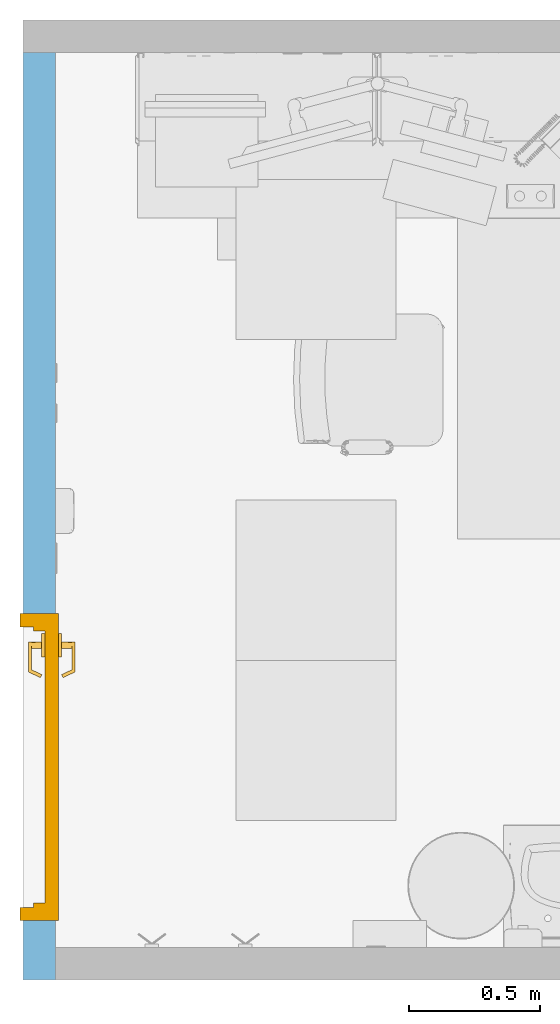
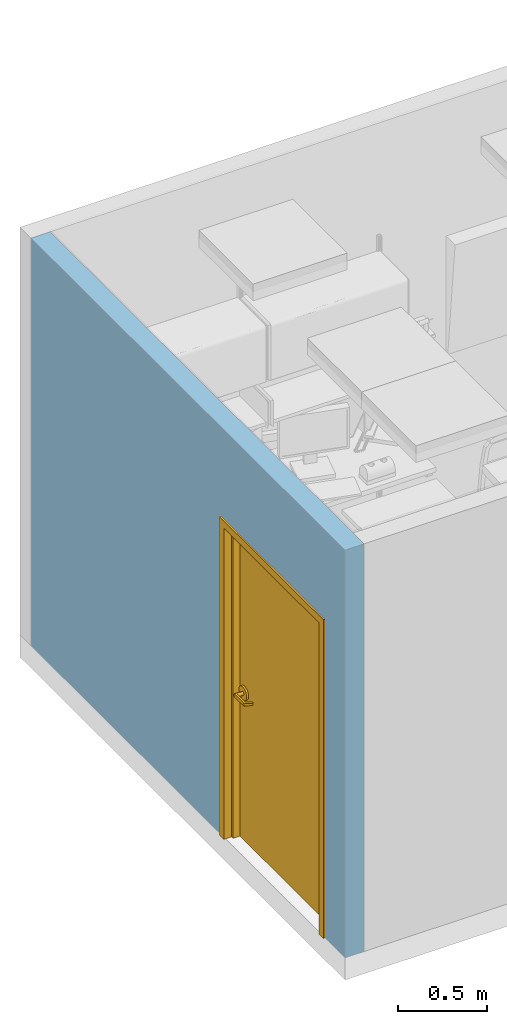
# One storey, part 2 of 9: 1 door, 1 opening, plus 1 element that does not belong to this part.
"""IFC2X3 building model written with IfcOpenShell, lengths in feet."""

from ifc_helpers import new_model, entity, si_unit, converted_unit, derived_unit, direction, frame, frame_2d, origin, place, context, subcontext, project, spatial, rectangle, extrude, faceted_brep, source, transform, mapped, material, layer, layer_set, layer_usage, type_object, type_shapes, element, fill, save


model = new_model("IFC2X3")

# Units and contexts
model_context = context("Model", 3, precision=0.0001, world=origin(), true_north=direction((6.12303176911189e-17, 1.0)))
body_context = subcontext(model_context, "Body", "Model", "MODEL_VIEW")
ifc_project = project(units=[converted_unit("LENGTHUNIT", "FOOT", entity("IfcRatioMeasure", 0.3048), si_unit("LENGTHUNIT", "METRE"), dimensions=[1, 0, 0, 0, 0, 0, 0]), converted_unit("AREAUNIT", "SQUARE FOOT", entity("IfcRatioMeasure", 0.09290304), si_unit("AREAUNIT", "SQUARE_METRE"), dimensions=[2, 0, 0, 0, 0, 0, 0]), converted_unit("VOLUMEUNIT", "CUBIC FOOT", entity("IfcRatioMeasure", 0.028316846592), si_unit("VOLUMEUNIT", "CUBIC_METRE"), dimensions=[3, 0, 0, 0, 0, 0, 0]), converted_unit("PLANEANGLEUNIT", "DEGREE", entity("IfcRatioMeasure", 0.0174532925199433), si_unit("PLANEANGLEUNIT", "RADIAN"), dimensions=[0, 0, 0, 0, 0, 0, 0]), si_unit("MASSUNIT", "GRAM", prefix="KILO"), derived_unit("MASSDENSITYUNIT", [(si_unit("MASSUNIT", "GRAM", prefix="KILO"), 1), (si_unit("LENGTHUNIT", "METRE"), -3)]), si_unit("TIMEUNIT", "SECOND"), si_unit("FREQUENCYUNIT", "HERTZ"), si_unit("THERMODYNAMICTEMPERATUREUNIT", "DEGREE_CELSIUS"), derived_unit("THERMALTRANSMITTANCEUNIT", [(si_unit("MASSUNIT", "GRAM", prefix="KILO"), 1), (si_unit("THERMODYNAMICTEMPERATUREUNIT", "KELVIN"), -1), (si_unit("TIMEUNIT", "SECOND"), -3)]), derived_unit("VOLUMETRICFLOWRATEUNIT", [(si_unit("LENGTHUNIT", "METRE"), 3), (si_unit("TIMEUNIT", "SECOND"), -1)]), si_unit("ELECTRICCURRENTUNIT", "AMPERE"), si_unit("ELECTRICVOLTAGEUNIT", "VOLT"), si_unit("POWERUNIT", "WATT"), si_unit("FORCEUNIT", "NEWTON"), si_unit("ILLUMINANCEUNIT", "LUX"), si_unit("LUMINOUSFLUXUNIT", "LUMEN"), si_unit("LUMINOUSINTENSITYUNIT", "CANDELA"), derived_unit("USERDEFINED", [(si_unit("MASSUNIT", "GRAM", prefix="KILO"), -1), (si_unit("LENGTHUNIT", "METRE"), -2), (si_unit("TIMEUNIT", "SECOND"), 3), (si_unit("LUMINOUSFLUXUNIT", "LUMEN"), 1)]), derived_unit("LINEARVELOCITYUNIT", [(si_unit("LENGTHUNIT", "METRE"), 1), (si_unit("TIMEUNIT", "SECOND"), -1)]), si_unit("PRESSUREUNIT", "PASCAL"), derived_unit("USERDEFINED", [(si_unit("LENGTHUNIT", "METRE"), -2), (si_unit("MASSUNIT", "GRAM", prefix="KILO"), 1), (si_unit("TIMEUNIT", "SECOND"), -2)])], contexts=[model_context])

# Site, building, storey
site_placement = place(None, origin())
site = spatial("IfcSite", under=ifc_project, at=site_placement, Name="Default", CompositionType="ELEMENT")
building_placement = place(site_placement, origin())
building = spatial("IfcBuilding", under=site, at=building_placement, Name="AUDIOLOGY AND SPEECH PATHOLOGY (Ch. 204)", CompositionType="ELEMENT")
storey_placement = place(building_placement, frame((0.0, 0.0, 42.0)))
storey = spatial("IfcBuildingStorey", under=building, at=storey_placement, Name="AUD01 - Audiology Rehabilitation/Counseling", CompositionType="ELEMENT", Elevation=42.0)

# Wall, opening, door
ifc_material = material(Name="<Unnamed>")
ifc_layer = layer(ifc_material, 0.40625)
ifc_layer_set = layer_set([ifc_layer], Name="Basic Wall:Interior - 4 7/8\"")
ifc_layer_usage = layer_usage(ifc_layer_set, "AXIS2", "POSITIVE", -0.203125)
wall_type = type_object("IfcWallType", Name="Basic Wall:Interior - 4 7/8\"", PredefinedType="STANDARD", material=ifc_layer_set)
wall_placement = place(storey_placement, frame((-1.02604166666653, 0.187500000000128, 0.0), z_axis=(0.0, 0.0, 1.0), x_axis=(0.0, 1.0, 0.0)))
wall = element("IfcWallStandardCase", 1, at=wall_placement, inside=storey, type_object=wall_type, material=ifc_layer_usage, Name="Basic Wall:Interior - 4 7/8\"", ObjectType="Basic Wall:Interior - 4 7/8\"", context=body_context, shape_type="SweptSolid", body=[
    extrude(rectangle(XDim=11.5729166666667, YDim=0.40625, at=frame_2d((5.78645833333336, 1.38777878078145e-17), x_axis=(-1.0, 0.0))), origin(), (0.0, 0.0, 1.0), 9.16666666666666),
])
opening_placement = place(wall_placement, frame((4.57291666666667, 0.203125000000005, 0.0)))
opening = element("IfcOpeningElement", 2, at=opening_placement, cuts=wall, Name="Single - Flush:42\" x 84\":1", ObjectType="Opening", context=body_context, shape_type="SweptSolid", body=[
    extrude(rectangle(XDim=3.83333333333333, YDim=7.16666666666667, at=frame_2d((3.58333333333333, 1.91666666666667), x_axis=(0.0, 1.0))), frame((0.0, 0.0, 0.0), z_axis=(0.0, -1.0, 0.0), x_axis=(0.0, 0.0, 1.0)), (0.0, 0.0, 1.0), 0.40625),
])
door_style = type_object("IfcDoorStyle", Name="42\" x 84\"", ConstructionType="NOTDEFINED", OperationType="NOTDEFINED", ParameterTakesPrecedence=False, Sizeable=False)
shared_shape = source(origin(), body_context, "Body", "Brep", [
    faceted_brep([(0.761840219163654, 0.236368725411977, 3.3541666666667), (0.761840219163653, 0.236368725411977, 3.31250000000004), (0.709012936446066, 0.123080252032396, 3.30208333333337), (0.702622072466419, 0.109375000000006, 3.30208333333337), (0.702622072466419, 0.109375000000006, 3.36458333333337), (0.709012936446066, 0.123080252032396, 3.36458333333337), (0.799603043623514, 0.218759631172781, 3.3541666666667), (0.746775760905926, 0.1054711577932, 3.36458333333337), (0.729166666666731, 0.0677083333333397, 3.36458333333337), (0.72916666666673, 0.0677083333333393, 3.30208333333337), (0.746775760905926, 0.1054711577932, 3.30208333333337), (0.799603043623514, 0.218759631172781, 3.31250000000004), (0.72916666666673, 0.109375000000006, 3.30208333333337), (0.729166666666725, 0.109375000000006, 3.36458333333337), (0.397137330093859, 0.0677083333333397, 3.29168707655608), (0.397137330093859, 0.0677083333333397, 3.37497959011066), (0.38693671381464, 0.0677083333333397, 3.37403912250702), (0.377273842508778, 0.0677083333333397, 3.37063824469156), (0.368732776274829, 0.0677083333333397, 3.36498251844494), (0.361829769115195, 0.0677083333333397, 3.35741379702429), (0.356982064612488, 0.0677083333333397, 3.34838956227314), (0.354482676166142, 0.0677083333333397, 3.33845527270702), (0.354482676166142, 0.0677083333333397, 3.32821139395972), (0.356982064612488, 0.0677083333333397, 3.31827710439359), (0.361829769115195, 0.0677083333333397, 3.30925286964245), (0.368732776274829, 0.0677083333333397, 3.3016841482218), (0.377273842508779, 0.0677083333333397, 3.29602842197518), (0.38693671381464, 0.0677083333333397, 3.29262754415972), (0.397137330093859, 0.109375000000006, 3.29168707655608), (0.407663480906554, 0.109375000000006, 3.29338137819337), (0.417415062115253, 0.109375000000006, 3.29769150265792), (0.425753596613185, 0.109375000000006, 3.30433524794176), (0.432133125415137, 0.109375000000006, 3.31287762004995), (0.436135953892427, 0.109375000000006, 3.32275931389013), (0.437500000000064, 0.109375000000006, 3.33333333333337), (0.436135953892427, 0.109375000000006, 3.34390735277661), (0.432133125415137, 0.109375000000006, 3.35378904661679), (0.425753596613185, 0.109375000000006, 3.36233141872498), (0.417415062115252, 0.109375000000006, 3.36897516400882), (0.407663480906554, 0.109375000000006, 3.37328528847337), (0.397137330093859, 0.109375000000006, 3.37497959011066), (0.387651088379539, 0.109375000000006, 3.29247795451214), (0.378594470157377, 0.109375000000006, 3.2954000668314), (0.363605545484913, 0.109375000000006, 3.30692347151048), (0.370437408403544, 0.109375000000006, 3.30030065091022), (0.358454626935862, 0.109375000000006, 3.31492291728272), (0.355252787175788, 0.109375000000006, 3.32388185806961), (0.35416666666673, 0.109375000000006, 3.33333333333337), (0.355252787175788, 0.109375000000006, 3.34278480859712), (0.358454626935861, 0.109375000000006, 3.35174374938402), (0.370437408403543, 0.109375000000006, 3.36636601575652), (0.363605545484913, 0.109375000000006, 3.35974319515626), (0.378594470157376, 0.109375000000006, 3.37126659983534), (0.387651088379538, 0.109375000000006, 3.3741887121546), (0.35416666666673, 0.234375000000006, 3.33333333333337), (0.355586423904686, 0.234375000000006, 3.34411746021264), (0.359748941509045, 0.234375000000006, 3.3541666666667), (0.375000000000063, 0.234375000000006, 3.36941772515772), (0.366370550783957, 0.234375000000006, 3.36279611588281), (0.385049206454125, 0.234375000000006, 3.37358024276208), (0.395833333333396, 0.234375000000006, 3.37500000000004), (0.406617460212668, 0.234375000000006, 3.37358024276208), (0.41666666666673, 0.234375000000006, 3.36941772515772), (0.431917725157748, 0.234375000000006, 3.3541666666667), (0.425296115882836, 0.234375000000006, 3.36279611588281), (0.436080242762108, 0.234375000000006, 3.34411746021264), (0.437500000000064, 0.234375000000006, 3.33333333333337), (0.436080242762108, 0.234375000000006, 3.3225492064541), (0.431917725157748, 0.234375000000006, 3.31250000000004), (0.41666666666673, 0.234375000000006, 3.29724894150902), (0.425296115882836, 0.234375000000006, 3.30387055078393), (0.406617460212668, 0.234375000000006, 3.29308642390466), (0.395833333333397, 0.234375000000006, 3.2916666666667), (0.385049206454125, 0.234375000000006, 3.29308642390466), (0.375000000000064, 0.234375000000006, 3.29724894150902), (0.359748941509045, 0.234375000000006, 3.31250000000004), (0.366370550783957, 0.234375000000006, 3.30387055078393), (0.355586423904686, 0.234375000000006, 3.3225492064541), (0.468750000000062, 0.234375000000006, 3.4596287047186), (0.498953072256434, 0.234375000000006, 3.43645307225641), (0.433577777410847, 0.234375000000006, 3.47419751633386), (0.395833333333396, 0.234375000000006, 3.4791666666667), (0.358088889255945, 0.234375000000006, 3.47419751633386), (0.322916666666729, 0.234375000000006, 3.4596287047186), (0.292713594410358, 0.234375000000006, 3.43645307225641), (0.269537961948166, 0.234375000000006, 3.40625000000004), (0.254969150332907, 0.234375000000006, 3.37107777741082), (0.250000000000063, 0.234375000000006, 3.33333333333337), (0.254969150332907, 0.234375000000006, 3.29558888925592), (0.269537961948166, 0.234375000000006, 3.2604166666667), (0.292713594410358, 0.234375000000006, 3.23021359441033), (0.32291666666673, 0.234375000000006, 3.20703796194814), (0.358088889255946, 0.234375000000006, 3.19246915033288), (0.395833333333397, 0.234375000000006, 3.18750000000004), (0.433577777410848, 0.234375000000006, 3.19246915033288), (0.468750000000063, 0.234375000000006, 3.20703796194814), (0.498953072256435, 0.234375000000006, 3.23021359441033), (0.522128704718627, 0.234375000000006, 3.2604166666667), (0.536697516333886, 0.234375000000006, 3.29558888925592), (0.54166666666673, 0.234375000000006, 3.33333333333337), (0.536697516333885, 0.234375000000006, 3.37107777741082), (0.522128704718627, 0.234375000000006, 3.40625000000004), (0.433577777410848, 0.276041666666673, 3.19246915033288), (0.395833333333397, 0.276041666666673, 3.18750000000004), (0.358088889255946, 0.276041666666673, 3.19246915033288), (0.32291666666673, 0.276041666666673, 3.20703796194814), (0.292713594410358, 0.276041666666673, 3.23021359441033), (0.269537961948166, 0.276041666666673, 3.2604166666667), (0.254969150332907, 0.276041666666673, 3.29558888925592), (0.250000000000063, 0.276041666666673, 3.33333333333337), (0.254969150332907, 0.276041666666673, 3.37107777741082), (0.269537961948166, 0.276041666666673, 3.40625000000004), (0.292713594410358, 0.276041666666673, 3.43645307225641), (0.322916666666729, 0.276041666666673, 3.4596287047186), (0.358088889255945, 0.276041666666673, 3.47419751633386), (0.395833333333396, 0.276041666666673, 3.4791666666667), (0.433577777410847, 0.276041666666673, 3.47419751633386), (0.468750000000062, 0.276041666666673, 3.4596287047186), (0.498953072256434, 0.276041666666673, 3.43645307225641), (0.522128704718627, 0.276041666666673, 3.40625000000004), (0.536697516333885, 0.276041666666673, 3.37107777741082), (0.54166666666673, 0.276041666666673, 3.33333333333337), (0.536697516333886, 0.276041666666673, 3.29558888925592), (0.522128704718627, 0.276041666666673, 3.2604166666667), (0.498953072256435, 0.276041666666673, 3.23021359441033), (0.468750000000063, 0.276041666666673, 3.20703796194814)], [[[0, 1, 2, 3, 4, 5]], [[6, 7, 8, 9, 10, 11]], [[12, 3, 2, 10, 9]], [[11, 10, 2, 1]], [[11, 1, 0, 6]], [[7, 6, 0, 5]], [[13, 8, 7, 5, 4]], [[14, 9, 8, 15, 16, 17, 18, 19, 20, 21, 22, 23, 24, 25, 26, 27]], [[3, 12, 28, 29, 30, 31, 32, 33, 34, 35, 36, 37, 38, 39, 40, 13, 4]], [[28, 12, 9, 14]], [[28, 14, 41]], [[41, 27, 42]], [[43, 44, 25]], [[24, 45, 43]], [[26, 44, 42]], [[45, 23, 46]], [[27, 26, 42]], [[41, 14, 27]], [[45, 24, 23]], [[24, 43, 25]], [[44, 26, 25]], [[46, 23, 22]], [[22, 47, 46]], [[47, 21, 48]], [[48, 20, 49]], [[50, 51, 18]], [[17, 52, 50]], [[19, 51, 49]], [[52, 16, 53]], [[51, 19, 18]], [[49, 20, 19]], [[48, 21, 20]], [[53, 16, 15]], [[16, 52, 17]], [[50, 18, 17]], [[40, 53, 15]], [[22, 21, 47]], [[40, 15, 8, 13]], [[54, 48, 55]], [[55, 49, 56]], [[57, 58, 50]], [[51, 58, 56]], [[59, 57, 52]], [[48, 49, 55]], [[54, 47, 48]], [[57, 50, 52]], [[50, 58, 51]], [[56, 49, 51]], [[59, 52, 53]], [[53, 60, 59]], [[60, 40, 61]], [[61, 39, 62]], [[63, 64, 37]], [[36, 65, 63]], [[38, 64, 62]], [[65, 35, 66]], [[39, 38, 62]], [[61, 40, 39]], [[65, 36, 35]], [[36, 63, 37]], [[64, 38, 37]], [[66, 35, 34]], [[53, 40, 60]], [[66, 33, 67]], [[67, 32, 68]], [[69, 70, 30]], [[31, 70, 68]], [[71, 69, 29]], [[33, 32, 67]], [[66, 34, 33]], [[69, 30, 29]], [[30, 70, 31]], [[68, 32, 31]], [[71, 29, 28]], [[28, 72, 71]], [[72, 41, 73]], [[73, 42, 74]], [[75, 76, 43]], [[45, 77, 75]], [[44, 76, 74]], [[77, 46, 54]], [[42, 44, 74]], [[73, 41, 42]], [[77, 45, 46]], [[45, 75, 43]], [[76, 44, 43]], [[54, 46, 47]], [[28, 41, 72]], [[78, 61, 62]], [[78, 62, 79]], [[78, 80, 61]], [[60, 61, 80]], [[81, 60, 80]], [[60, 81, 59]], [[82, 59, 81]], [[82, 57, 59]], [[57, 82, 83]], [[57, 83, 58]], [[84, 58, 83]], [[58, 84, 56]], [[56, 84, 85]], [[56, 85, 55]], [[55, 85, 86]], [[54, 55, 86]], [[87, 54, 86]], [[77, 54, 87]], [[88, 77, 87]], [[75, 77, 88]], [[89, 75, 88]], [[75, 89, 90]], [[76, 75, 90]], [[90, 91, 76]], [[91, 74, 76]], [[74, 91, 92]], [[74, 92, 73]], [[92, 93, 73]], [[72, 73, 93]], [[93, 94, 72]], [[72, 94, 71]], [[95, 71, 94]], [[71, 95, 69]], [[69, 95, 96]], [[70, 69, 96]], [[97, 70, 96]], [[68, 70, 97]], [[98, 68, 97]], [[68, 98, 67]], [[67, 98, 99]], [[99, 66, 67]], [[99, 100, 66]], [[65, 66, 100]], [[101, 65, 100]], [[64, 101, 79]], [[101, 63, 65]], [[63, 101, 64]], [[64, 79, 62]], [[102, 103, 104, 105, 106, 107, 108, 109, 110, 111, 112, 113, 114, 115, 116, 117, 118, 119, 120, 121, 122, 123, 124, 125]], [[109, 87, 86, 110]], [[110, 86, 85, 111]], [[113, 112, 84, 83]], [[84, 112, 111, 85]], [[114, 113, 83, 82]], [[114, 82, 81, 115]], [[115, 81, 80, 116]], [[116, 80, 78, 117]], [[119, 118, 79, 101]], [[79, 118, 117, 78]], [[120, 119, 101, 100]], [[120, 100, 99, 121]], [[121, 99, 98, 122]], [[122, 98, 97, 123]], [[125, 124, 96, 95]], [[96, 124, 123, 97]], [[102, 125, 95, 94]], [[102, 94, 93, 103]], [[103, 93, 92, 104]], [[104, 92, 91, 105]], [[107, 106, 90, 89]], [[90, 106, 105, 91]], [[108, 107, 89, 88]], [[108, 88, 87, 109]]]),
    faceted_brep([(0.761840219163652, 0.482381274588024, 3.31249999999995), (0.761840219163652, 0.482381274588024, 3.35416666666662), (0.709012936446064, 0.595669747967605, 3.36458333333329), (0.702622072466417, 0.609374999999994, 3.36458333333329), (0.702622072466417, 0.609374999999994, 3.30208333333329), (0.709012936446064, 0.595669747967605, 3.30208333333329), (0.799603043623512, 0.49999036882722, 3.31249999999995), (0.746775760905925, 0.613278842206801, 3.30208333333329), (0.729166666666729, 0.651041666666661, 3.30208333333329), (0.729166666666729, 0.651041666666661, 3.36458333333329), (0.746775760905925, 0.6132788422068, 3.36458333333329), (0.799603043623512, 0.49999036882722, 3.35416666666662), (0.729166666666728, 0.609374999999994, 3.36458333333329), (0.729166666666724, 0.609374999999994, 3.30208333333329), (0.397137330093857, 0.651041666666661, 3.37497959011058), (0.397137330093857, 0.651041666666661, 3.291687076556), (0.386936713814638, 0.651041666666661, 3.29262754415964), (0.377273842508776, 0.651041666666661, 3.2960284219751), (0.368732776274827, 0.651041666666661, 3.30168414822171), (0.361829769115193, 0.651041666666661, 3.30925286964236), (0.356982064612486, 0.651041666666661, 3.31827710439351), (0.35448267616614, 0.651041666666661, 3.32821139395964), (0.35448267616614, 0.651041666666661, 3.33845527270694), (0.356982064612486, 0.651041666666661, 3.34838956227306), (0.361829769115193, 0.651041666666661, 3.35741379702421), (0.368732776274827, 0.651041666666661, 3.36498251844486), (0.377273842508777, 0.651041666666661, 3.37063824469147), (0.386936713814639, 0.651041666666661, 3.37403912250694), (0.397137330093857, 0.609374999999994, 3.37497959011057), (0.407663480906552, 0.609374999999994, 3.37328528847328), (0.417415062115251, 0.609374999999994, 3.36897516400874), (0.425753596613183, 0.609374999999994, 3.3623314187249), (0.432133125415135, 0.609374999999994, 3.35378904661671), (0.436135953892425, 0.609374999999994, 3.34390735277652), (0.437500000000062, 0.609374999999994, 3.33333333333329), (0.436135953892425, 0.609374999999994, 3.32275931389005), (0.432133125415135, 0.609374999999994, 3.31287762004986), (0.425753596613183, 0.609374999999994, 3.30433524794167), (0.417415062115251, 0.609374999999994, 3.29769150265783), (0.407663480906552, 0.609374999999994, 3.29338137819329), (0.397137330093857, 0.609374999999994, 3.291687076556), (0.387651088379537, 0.609374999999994, 3.37418871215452), (0.378594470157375, 0.609374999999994, 3.37126659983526), (0.363605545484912, 0.609374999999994, 3.35974319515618), (0.370437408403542, 0.609374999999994, 3.36636601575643), (0.35845462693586, 0.609374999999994, 3.35174374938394), (0.355252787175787, 0.609374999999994, 3.34278480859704), (0.354166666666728, 0.609374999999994, 3.33333333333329), (0.355252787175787, 0.609374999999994, 3.32388185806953), (0.35845462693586, 0.609374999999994, 3.31492291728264), (0.370437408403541, 0.609374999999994, 3.30030065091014), (0.363605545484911, 0.609374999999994, 3.30692347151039), (0.378594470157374, 0.609374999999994, 3.29540006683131), (0.387651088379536, 0.609374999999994, 3.29247795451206), (0.354166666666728, 0.484374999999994, 3.33333333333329), (0.355586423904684, 0.484374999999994, 3.32254920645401), (0.359748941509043, 0.484374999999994, 3.31249999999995), (0.375000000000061, 0.484374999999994, 3.29724894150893), (0.366370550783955, 0.484374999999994, 3.30387055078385), (0.385049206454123, 0.484374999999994, 3.29308642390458), (0.395833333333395, 0.484374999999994, 3.29166666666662), (0.406617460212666, 0.484374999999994, 3.29308642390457), (0.416666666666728, 0.484374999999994, 3.29724894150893), (0.431917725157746, 0.484374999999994, 3.31249999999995), (0.425296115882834, 0.484374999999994, 3.30387055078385), (0.436080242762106, 0.484374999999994, 3.32254920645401), (0.437500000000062, 0.484374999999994, 3.33333333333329), (0.436080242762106, 0.484374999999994, 3.34411746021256), (0.431917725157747, 0.484374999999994, 3.35416666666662), (0.416666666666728, 0.484374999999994, 3.36941772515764), (0.425296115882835, 0.484374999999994, 3.36279611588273), (0.406617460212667, 0.484374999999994, 3.373580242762), (0.395833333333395, 0.484374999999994, 3.37499999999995), (0.385049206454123, 0.484374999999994, 3.373580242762), (0.375000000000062, 0.484374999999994, 3.36941772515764), (0.359748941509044, 0.484374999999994, 3.35416666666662), (0.366370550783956, 0.484374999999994, 3.36279611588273), (0.355586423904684, 0.484374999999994, 3.34411746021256), (0.468750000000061, 0.484374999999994, 3.20703796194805), (0.498953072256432, 0.484374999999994, 3.23021359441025), (0.433577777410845, 0.484374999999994, 3.1924691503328), (0.395833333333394, 0.484374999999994, 3.18749999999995), (0.358088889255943, 0.484374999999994, 3.1924691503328), (0.322916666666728, 0.484374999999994, 3.20703796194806), (0.292713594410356, 0.484374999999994, 3.23021359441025), (0.269537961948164, 0.484374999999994, 3.26041666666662), (0.254969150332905, 0.484374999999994, 3.29558888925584), (0.250000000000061, 0.484374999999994, 3.33333333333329), (0.254969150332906, 0.484374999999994, 3.37107777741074), (0.269537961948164, 0.484374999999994, 3.40624999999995), (0.292713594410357, 0.484374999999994, 3.43645307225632), (0.322916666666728, 0.484374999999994, 3.45962870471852), (0.358088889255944, 0.484374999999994, 3.47419751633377), (0.395833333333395, 0.484374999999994, 3.47916666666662), (0.433577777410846, 0.484374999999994, 3.47419751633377), (0.468750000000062, 0.484374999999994, 3.45962870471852), (0.498953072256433, 0.484374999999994, 3.43645307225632), (0.522128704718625, 0.484374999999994, 3.40624999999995), (0.536697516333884, 0.484374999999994, 3.37107777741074), (0.541666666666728, 0.484374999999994, 3.33333333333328), (0.536697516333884, 0.484374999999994, 3.29558888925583), (0.522128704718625, 0.484374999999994, 3.26041666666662), (0.433577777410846, 0.442708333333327, 3.47419751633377), (0.395833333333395, 0.442708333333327, 3.47916666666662), (0.358088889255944, 0.442708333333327, 3.47419751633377), (0.322916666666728, 0.442708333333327, 3.45962870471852), (0.292713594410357, 0.442708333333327, 3.43645307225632), (0.269537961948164, 0.442708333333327, 3.40624999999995), (0.254969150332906, 0.442708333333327, 3.37107777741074), (0.250000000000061, 0.442708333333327, 3.33333333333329), (0.254969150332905, 0.442708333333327, 3.29558888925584), (0.269537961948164, 0.442708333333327, 3.26041666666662), (0.292713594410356, 0.442708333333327, 3.23021359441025), (0.322916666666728, 0.442708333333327, 3.20703796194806), (0.358088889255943, 0.442708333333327, 3.1924691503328), (0.395833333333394, 0.442708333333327, 3.18749999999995), (0.433577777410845, 0.442708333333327, 3.1924691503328), (0.468750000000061, 0.442708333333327, 3.20703796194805), (0.498953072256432, 0.442708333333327, 3.23021359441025), (0.522128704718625, 0.442708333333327, 3.26041666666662), (0.536697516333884, 0.442708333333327, 3.29558888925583), (0.541666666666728, 0.442708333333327, 3.33333333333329), (0.536697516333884, 0.442708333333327, 3.37107777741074), (0.522128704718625, 0.442708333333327, 3.40624999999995), (0.498953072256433, 0.442708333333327, 3.43645307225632), (0.468750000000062, 0.442708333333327, 3.45962870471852)], [[[0, 1, 2, 3, 4, 5]], [[6, 7, 8, 9, 10, 11]], [[12, 3, 2, 10, 9]], [[11, 10, 2, 1]], [[11, 1, 0, 6]], [[7, 6, 0, 5]], [[13, 8, 7, 5, 4]], [[14, 9, 8, 15, 16, 17, 18, 19, 20, 21, 22, 23, 24, 25, 26, 27]], [[3, 12, 28, 29, 30, 31, 32, 33, 34, 35, 36, 37, 38, 39, 40, 13, 4]], [[28, 12, 9, 14]], [[28, 14, 41]], [[41, 27, 42]], [[43, 44, 25]], [[24, 45, 43]], [[26, 44, 42]], [[45, 23, 46]], [[27, 26, 42]], [[41, 14, 27]], [[45, 24, 23]], [[24, 43, 25]], [[44, 26, 25]], [[46, 23, 22]], [[22, 47, 46]], [[47, 21, 48]], [[48, 20, 49]], [[50, 51, 18]], [[17, 52, 50]], [[19, 51, 49]], [[52, 16, 53]], [[51, 19, 18]], [[49, 20, 19]], [[48, 21, 20]], [[53, 16, 15]], [[16, 52, 17]], [[50, 18, 17]], [[40, 53, 15]], [[22, 21, 47]], [[40, 15, 8, 13]], [[54, 48, 55]], [[55, 49, 56]], [[57, 58, 50]], [[51, 58, 56]], [[59, 57, 52]], [[48, 49, 55]], [[54, 47, 48]], [[57, 50, 52]], [[50, 58, 51]], [[56, 49, 51]], [[59, 52, 53]], [[53, 60, 59]], [[60, 40, 61]], [[61, 39, 62]], [[63, 64, 37]], [[36, 65, 63]], [[38, 64, 62]], [[65, 35, 66]], [[39, 38, 62]], [[61, 40, 39]], [[65, 36, 35]], [[36, 63, 37]], [[64, 38, 37]], [[66, 35, 34]], [[53, 40, 60]], [[66, 33, 67]], [[67, 32, 68]], [[69, 70, 30]], [[31, 70, 68]], [[71, 69, 29]], [[33, 32, 67]], [[66, 34, 33]], [[69, 30, 29]], [[30, 70, 31]], [[68, 32, 31]], [[71, 29, 28]], [[28, 72, 71]], [[72, 41, 73]], [[73, 42, 74]], [[75, 76, 43]], [[45, 77, 75]], [[44, 76, 74]], [[77, 46, 54]], [[42, 44, 74]], [[73, 41, 42]], [[77, 45, 46]], [[45, 75, 43]], [[76, 44, 43]], [[54, 46, 47]], [[28, 41, 72]], [[78, 61, 62]], [[78, 62, 79]], [[78, 80, 61]], [[60, 61, 80]], [[81, 60, 80]], [[60, 81, 59]], [[82, 59, 81]], [[82, 57, 59]], [[57, 82, 83]], [[57, 83, 58]], [[84, 58, 83]], [[58, 84, 56]], [[56, 84, 85]], [[56, 85, 55]], [[55, 85, 86]], [[54, 55, 86]], [[87, 54, 86]], [[77, 54, 87]], [[88, 77, 87]], [[75, 77, 88]], [[89, 75, 88]], [[75, 89, 90]], [[76, 75, 90]], [[90, 91, 76]], [[91, 74, 76]], [[74, 91, 92]], [[74, 92, 73]], [[92, 93, 73]], [[72, 73, 93]], [[93, 94, 72]], [[72, 94, 71]], [[95, 71, 94]], [[71, 95, 69]], [[69, 95, 96]], [[70, 69, 96]], [[97, 70, 96]], [[68, 70, 97]], [[98, 68, 97]], [[68, 98, 67]], [[67, 98, 99]], [[99, 66, 67]], [[99, 100, 66]], [[65, 66, 100]], [[101, 65, 100]], [[64, 101, 79]], [[101, 63, 65]], [[63, 101, 64]], [[64, 79, 62]], [[102, 103, 104, 105, 106, 107, 108, 109, 110, 111, 112, 113, 114, 115, 116, 117, 118, 119, 120, 121, 122, 123, 124, 125]], [[109, 87, 86, 110]], [[110, 86, 85, 111]], [[113, 112, 84, 83]], [[84, 112, 111, 85]], [[114, 113, 83, 82]], [[114, 82, 81, 115]], [[115, 81, 80, 116]], [[116, 80, 78, 117]], [[119, 118, 79, 101]], [[79, 118, 117, 78]], [[120, 119, 101, 100]], [[120, 100, 99, 121]], [[121, 99, 98, 122]], [[122, 98, 97, 123]], [[125, 124, 96, 95]], [[96, 124, 123, 97]], [[102, 125, 95, 94]], [[102, 94, 93, 103]], [[103, 93, 92, 104]], [[104, 92, 91, 105]], [[107, 106, 90, 89]], [[90, 106, 105, 91]], [[108, 107, 89, 88]], [[108, 88, 87, 109]]]),
    faceted_brep([(3.66666666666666, 0.442708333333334, 7.0), (3.66666666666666, 0.442708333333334, 0.0), (0.166666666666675, 0.442708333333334, 0.0), (0.166666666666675, 0.442708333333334, 7.0), (3.66666666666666, 0.276041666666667, 7.0), (0.166666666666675, 0.276041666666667, 7.0), (0.166666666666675, 0.276041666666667, 0.0), (3.66666666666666, 0.276041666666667, 0.0)], [[[0, 1, 2, 3]], [[4, 5, 6, 7]], [[3, 5, 4, 0]], [[2, 6, 5, 3]], [[1, 7, 6, 2]], [[0, 4, 7, 1]]]),
    faceted_brep([(3.66666666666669, 0.442708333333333, 0.0), (3.83333333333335, 0.442708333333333, 0.0), (3.83333333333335, -0.0364583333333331, 0.0), (3.66666666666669, -0.0364583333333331, 0.0), (3.66666666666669, 0.130208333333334, 0.0), (3.61458333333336, 0.130208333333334, 0.0), (3.61458333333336, 0.276041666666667, 0.0), (3.66666666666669, 0.276041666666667, 0.0), (3.66666666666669, 0.276041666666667, 7.0), (3.66666666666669, 0.442708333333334, 7.0), (3.61458333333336, 0.276041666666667, 6.94791666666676), (0.218749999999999, 0.276041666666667, 6.94791666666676), (0.218749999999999, 0.276041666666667, 0.0), (0.166666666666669, 0.276041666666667, 0.0), (0.166666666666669, 0.276041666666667, 7.0), (3.61458333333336, 0.130208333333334, 6.94791666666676), (3.66666666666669, 0.130208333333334, 7.0), (0.166666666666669, 0.130208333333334, 7.0), (0.166666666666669, 0.130208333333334, 0.0), (0.218749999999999, 0.130208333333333, 0.0), (0.218749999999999, 0.130208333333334, 6.94791666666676), (3.66666666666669, -0.0364583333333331, 7.0), (3.83333333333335, -0.0364583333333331, 7.16666666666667), (0.0, -0.0364583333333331, 7.16666666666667), (0.0, -0.0364583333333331, 0.0), (0.166666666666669, -0.0364583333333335, 0.0), (0.166666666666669, -0.0364583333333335, 7.0), (3.83333333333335, 0.442708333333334, 7.16666666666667), (0.166666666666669, 0.442708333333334, 7.0), (0.166666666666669, 0.442708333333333, 0.0), (0.0, 0.442708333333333, 0.0), (0.0, 0.442708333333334, 7.16666666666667)], [[[0, 1, 2, 3, 4, 5, 6, 7]], [[7, 8, 9, 0]], [[6, 10, 11, 12, 13, 14, 8, 7]], [[5, 15, 10, 6]], [[4, 16, 17, 18, 19, 20, 15, 5]], [[3, 21, 16, 4]], [[2, 22, 23, 24, 25, 26, 21, 3]], [[1, 27, 22, 2]], [[0, 9, 28, 29, 30, 31, 27, 1]], [[29, 28, 14, 13]], [[29, 13, 12, 19, 18, 25, 24, 30]], [[12, 11, 20, 19]], [[17, 26, 25, 18]], [[30, 24, 23, 31]], [[14, 28, 9, 8]], [[15, 20, 11, 10]], [[21, 26, 17, 16]], [[23, 22, 27, 31]]]),
])
type_shapes(door_style, [shared_shape])
door_placement = place(opening_placement, frame((0.0, 0.0, 0.0), z_axis=(0.0, 0.0, 1.0), x_axis=(-1.0, 0.0, 0.0)))
door = element("IfcDoor", 3, at=door_placement, inside=storey, type_object=door_style, Name="Single - Flush:42\" x 84\"", ObjectType="42\" x 84\"", OverallHeight=7.16666666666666, OverallWidth=3.83333333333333, context=body_context, shape_type="MappedRepresentation", body=[
    mapped(shared_shape, transform((0.0, 0.0, 0.0), scale=1.0)),
])
fill(opening, door)

save(model, "model.ifc")
